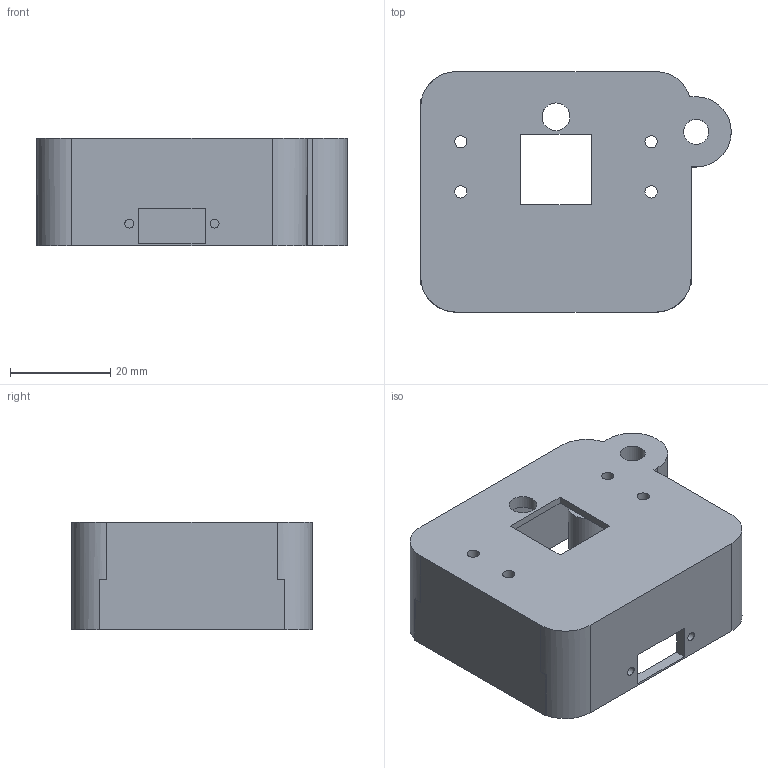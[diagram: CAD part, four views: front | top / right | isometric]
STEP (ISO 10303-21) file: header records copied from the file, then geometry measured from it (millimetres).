
FILE_DESCRIPTION(('Open CASCADE Model'),'2;1');
FILE_NAME('Open CASCADE Shape Model','2026-09-17T20:02:03',('Author'),( 'Open CASCADE'),'Open CASCADE STEP processor 7.7','Open CASCADE 7.7' ,'Unknown');
FILE_SCHEMA(('AUTOMOTIVE_DESIGN { 1 0 10303 214 1 1 1 1 }'));
Length unit declared in the file: millimetre
Products named in the file (1): Open CASCADE STEP translator 7.7 1
Bounding box: 62 x 48 x 21.4 mm (x, y, z)
Volume: 17023.8 mm3; surface area: 14868.7 mm2
Topology: 1 solids, 1 shells, 108 faces, 294 edges, 196 vertices
Faces by surface type: plane 79, cylinder 29
Full cylindrical faces by diameter (mm): 1.8 x2, 2.45 x4, 3.4 x8, 5 x1, 5.55 x1
Entity records: 7313 total; most frequent: CARTESIAN_POINT 1501, DIRECTION 1039, LINE 654, VECTOR 654, ORIENTED_EDGE 588, PCURVE 588, DEFINITIONAL_REPRESENTATION 588, EDGE_CURVE 294
